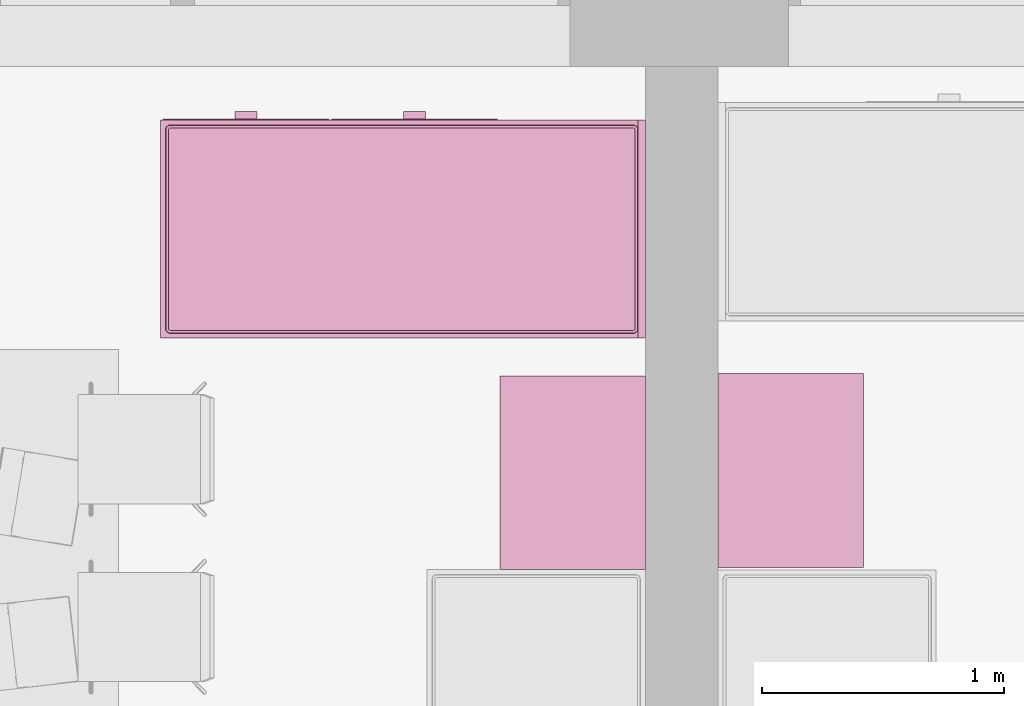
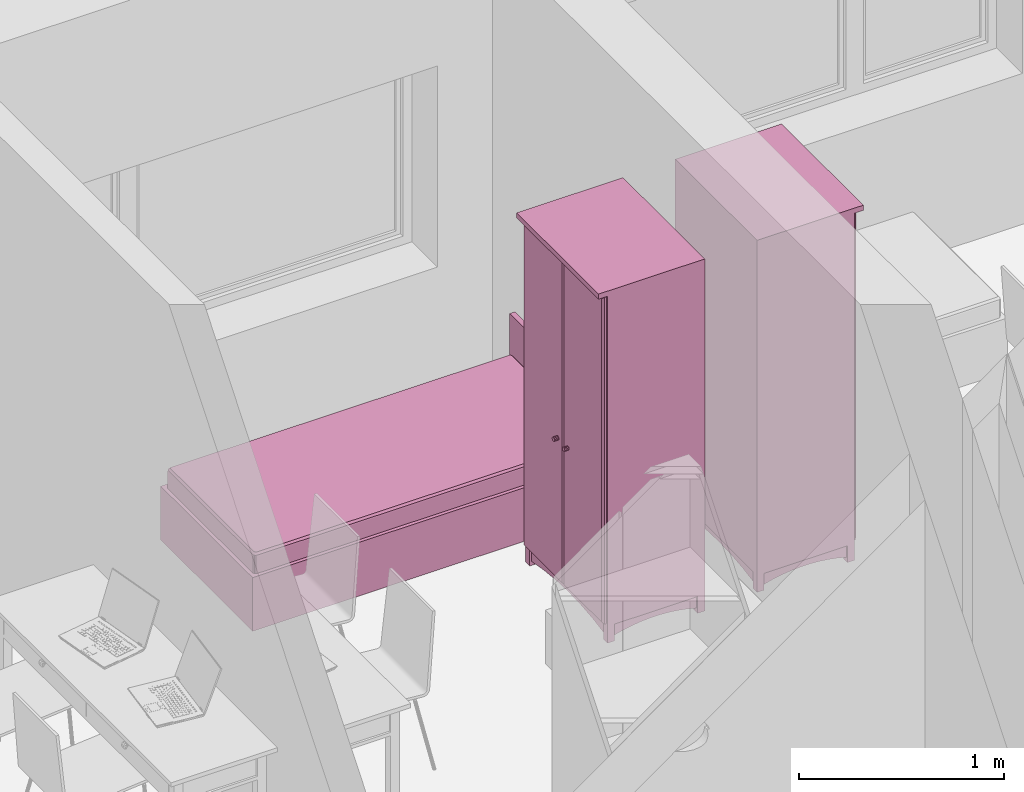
# One storey, part 138 of 172: 3 furnishings.
"""IFC2X3 building model written with IfcOpenShell, lengths in millimetres."""

from ifc_helpers import new_model, entity, si_unit, converted_unit, money_unit, direction, frame, origin_with_axes, place, context, subcontext, project, spatial, faceted_brep, source, transform, mapped, material, material_list, type_object, element, save


model = new_model("IFC2X3")

# Units and contexts
model_context = context("Model", 3, precision=1e-05, world=origin_with_axes(), true_north=direction((0.0, 1.0)))
body_context = subcontext(model_context, "Body", "Model", "MODEL_VIEW")
ifc_project = project(units=[si_unit("LENGTHUNIT", "METRE", prefix="MILLI"), si_unit("AREAUNIT", "SQUARE_METRE"), si_unit("VOLUMEUNIT", "CUBIC_METRE"), converted_unit("PLANEANGLEUNIT", "DEGREE", entity("IfcPlaneAngleMeasure", 0.0174532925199), si_unit("PLANEANGLEUNIT", "RADIAN"), dimensions=[0, 0, 0, 0, 0, 0, 0]), si_unit("SOLIDANGLEUNIT", "STERADIAN"), money_unit("USD"), converted_unit("TIMEUNIT", "Year", entity("IfcTimeMeasure", 31556926.0), si_unit("TIMEUNIT", "SECOND"), dimensions=[0, 0, 0, 0, 0, 0, 0]), si_unit("MASSUNIT", "GRAM"), si_unit("THERMODYNAMICTEMPERATUREUNIT", "DEGREE_CELSIUS"), si_unit("LUMINOUSINTENSITYUNIT", "LUMEN")], contexts=[model_context])

# Site, building, storey
site_placement = place(None, origin_with_axes())
site = spatial("IfcSite", under=ifc_project, at=site_placement, Name="Site", CompositionType="ELEMENT")
building_placement = place(site_placement, origin_with_axes())
building = spatial("IfcBuilding", under=site, at=building_placement, Name="Building", CompositionType="ELEMENT")
storey_placement = place(building_placement, frame((0.0, 0.0, 3200.0), z_axis=(0.0, 0.0, 1.0), x_axis=(1.0, 0.0, 0.0)))
storey = spatial("IfcBuildingStorey", under=building, at=storey_placement, Name="3KORRUS", CompositionType="ELEMENT", Elevation=3200.0)

# Furnishings
ifc_material = material(Name="Background")
ifc_material_list = material_list([ifc_material])
furnishing_element_type_1 = type_object("IfcFurnishingElementType", Name="Cupboard 19")
shared_shape_1 = source(origin_with_axes(), body_context, "Body", "Brep", [
    faceted_brep([(780.0, 600.0, 120.0), (780.0, 600.0, 2050.0), (780.0, 580.0, 2050.0), (780.0, 580.0, 120.0), (20.0, 600.0, 120.0), (20.0, 600.0, 2050.0), (20.0, 580.0, 2050.0), (20.0, 580.0, 120.0)], [[[0, 1, 2, 3]], [[4, 5, 1, 0]], [[1, 5, 6, 2]], [[3, 2, 6, 7]], [[0, 3, 7, 4]], [[7, 6, 5, 4]]]),
    faceted_brep([(0.0, 50.0, 100.0), (0.0, 600.0, 100.0), (20.0, 600.0, 100.0), (20.0, 50.0, 100.0), (0.0, 50.0, 2070.0), (0.0, 600.0, 2070.0), (20.0, 600.0, 2070.0), (20.0, 50.0, 2070.0)], [[[0, 1, 2, 3]], [[0, 4, 5, 1]], [[1, 5, 6, 2]], [[2, 6, 7, 3]], [[3, 7, 4, 0]], [[7, 6, 5, 4]]]),
    faceted_brep([(780.0, 50.0, 100.0), (780.0, 600.0, 100.0), (800.0, 600.0, 100.0), (800.0, 50.0, 100.0), (780.0, 50.0, 2070.0), (780.0, 600.0, 2070.0), (800.0, 600.0, 2070.0), (800.0, 50.0, 2070.0)], [[[0, 1, 2, 3]], [[0, 4, 5, 1]], [[1, 5, 6, 2]], [[2, 6, 7, 3]], [[3, 7, 4, 0]], [[7, 6, 5, 4]]]),
    faceted_brep([(20.0, 50.0, 100.0), (20.0, 600.0, 100.0), (780.0, 600.0, 100.0), (780.0, 50.0, 100.0), (20.0, 50.0, 120.0), (20.0, 600.0, 120.0), (780.0, 600.0, 120.0), (780.0, 50.0, 120.0)], [[[0, 1, 2, 3]], [[0, 4, 5, 1]], [[1, 5, 6, 2]], [[2, 6, 7, 3]], [[3, 7, 4, 0]], [[7, 6, 5, 4]]]),
    faceted_brep([(20.0, 50.0, 2050.0), (20.0, 600.0, 2050.0), (780.0, 600.0, 2050.0), (780.0, 50.0, 2050.0), (20.0, 50.0, 2070.0), (20.0, 600.0, 2070.0), (780.0, 600.0, 2070.0), (780.0, 50.0, 2070.0)], [[[0, 1, 2, 3]], [[0, 4, 5, 1]], [[1, 5, 6, 2]], [[2, 6, 7, 3]], [[3, 7, 4, 0]], [[7, 6, 5, 4]]]),
    faceted_brep([(0.0, 600.0, 2070.0), (0.0, 0.0, 2070.0), (0.0, 0.0, 2100.0), (0.0, 600.0, 2100.0), (800.0, 600.0, 2070.0), (800.0, 0.0, 2070.0), (800.0, 0.0, 2100.0), (800.0, 600.0, 2100.0)], [[[0, 1, 2, 3]], [[0, 4, 5, 1]], [[1, 5, 6, 2]], [[3, 2, 6, 7]], [[4, 0, 3, 7]], [[5, 4, 7, 6]]]),
    faceted_brep([(760.0, 590.0, 25.0), (760.0, 570.0, 25.0), (640.962, 570.0, 45.8), (640.962, 590.0, 45.8), (760.0, 590.0, 100.0), (760.0, 570.0, 100.0), (40.0, 570.0, 100.0), (40.0, 570.0, 25.0), (159.038, 570.0, 45.8), (279.23, 570.0, 58.32), (400.0, 570.0, 62.5), (520.77, 570.0, 58.32), (520.77, 590.0, 58.32), (400.0, 590.0, 62.5), (279.23, 590.0, 58.32), (159.038, 590.0, 45.8), (40.0, 590.0, 25.0), (40.0, 590.0, 100.0)], [[[0, 1, 2, 3]], [[4, 5, 1, 0]], [[1, 5, 6, 7, 8, 9, 10, 11, 2]], [[3, 2, 11, 12]], [[0, 3, 12, 13, 14, 15, 16, 17, 4]], [[17, 6, 5, 4]], [[16, 7, 6, 17]], [[15, 8, 7, 16]], [[14, 9, 8, 15]], [[13, 10, 9, 14]], [[12, 11, 10, 13]]]),
    faceted_brep([(760.0, 80.0, 25.0), (760.0, 60.0, 25.0), (640.962, 60.0, 45.8), (640.962, 80.0, 45.8), (760.0, 80.0, 100.0), (760.0, 60.0, 100.0), (40.0, 60.0, 100.0), (40.0, 60.0, 25.0), (159.038, 60.0, 45.8), (279.23, 60.0, 58.32), (400.0, 60.0, 62.5), (520.77, 60.0, 58.32), (520.77, 80.0, 58.32), (400.0, 80.0, 62.5), (279.23, 80.0, 58.32), (159.038, 80.0, 45.8), (40.0, 80.0, 25.0), (40.0, 80.0, 100.0)], [[[0, 1, 2, 3]], [[4, 5, 1, 0]], [[1, 5, 6, 7, 8, 9, 10, 11, 2]], [[3, 2, 11, 12]], [[0, 3, 12, 13, 14, 15, 16, 17, 4]], [[17, 6, 5, 4]], [[16, 7, 6, 17]], [[15, 8, 7, 16]], [[14, 9, 8, 15]], [[13, 10, 9, 14]], [[12, 11, 10, 13]]]),
    faceted_brep([(790.0, 90.0, 25.0), (770.0, 90.0, 25.0), (770.0, 141.266, 38.072), (790.0, 141.266, 38.072), (790.0, 90.0, 100.0), (770.0, 90.0, 100.0), (770.0, 560.0, 100.0), (770.0, 560.0, 25.0), (770.0, 508.734, 38.072), (770.0, 456.752, 47.92), (770.0, 404.257, 54.508), (770.0, 351.453, 57.808), (770.0, 298.547, 57.808), (770.0, 245.743, 54.508), (770.0, 193.248, 47.92), (790.0, 193.248, 47.92), (790.0, 245.743, 54.508), (790.0, 298.547, 57.808), (790.0, 351.453, 57.808), (790.0, 404.257, 54.508), (790.0, 456.752, 47.92), (790.0, 508.734, 38.072), (790.0, 560.0, 25.0), (790.0, 560.0, 100.0)], [[[0, 1, 2, 3]], [[4, 5, 1, 0]], [[1, 5, 6, 7, 8, 9, 10, 11, 12, 13, 14, 2]], [[3, 2, 14, 15]], [[0, 3, 15, 16, 17, 18, 19, 20, 21, 22, 23, 4]], [[23, 6, 5, 4]], [[22, 7, 6, 23]], [[21, 8, 7, 22]], [[20, 9, 8, 21]], [[19, 10, 9, 20]], [[18, 11, 10, 19]], [[17, 12, 11, 18]], [[16, 13, 12, 17]], [[15, 14, 13, 16]]]),
    faceted_brep([(30.0, 90.0, 25.0), (10.0, 90.0, 25.0), (10.0, 141.266, 38.072), (30.0, 141.266, 38.072), (30.0, 90.0, 100.0), (10.0, 90.0, 100.0), (10.0, 560.0, 100.0), (10.0, 560.0, 25.0), (10.0, 508.734, 38.072), (10.0, 456.752, 47.92), (10.0, 404.257, 54.508), (10.0, 351.453, 57.808), (10.0, 298.547, 57.808), (10.0, 245.743, 54.508), (10.0, 193.248, 47.92), (30.0, 193.248, 47.92), (30.0, 245.743, 54.508), (30.0, 298.547, 57.808), (30.0, 351.453, 57.808), (30.0, 404.257, 54.508), (30.0, 456.752, 47.92), (30.0, 508.734, 38.072), (30.0, 560.0, 25.0), (30.0, 560.0, 100.0)], [[[0, 1, 2, 3]], [[4, 5, 1, 0]], [[1, 5, 6, 7, 8, 9, 10, 11, 12, 13, 14, 2]], [[3, 2, 14, 15]], [[0, 3, 15, 16, 17, 18, 19, 20, 21, 22, 23, 4]], [[23, 6, 5, 4]], [[22, 7, 6, 23]], [[21, 8, 7, 22]], [[20, 9, 8, 21]], [[19, 10, 9, 20]], [[18, 11, 10, 19]], [[17, 12, 11, 18]], [[16, 13, 12, 17]], [[15, 14, 13, 16]]]),
    faceted_brep([(760.0, 560.0, 0.0), (760.0, 560.0, 100.0), (760.0, 600.0, 100.0), (760.0, 600.0, 0.0), (800.0, 560.0, 0.0), (800.0, 560.0, 100.0), (800.0, 600.0, 100.0), (800.0, 600.0, 0.0)], [[[0, 1, 2, 3]], [[4, 5, 1, 0]], [[1, 5, 6, 2]], [[3, 2, 6, 7]], [[0, 3, 7, 4]], [[7, 6, 5, 4]]]),
    faceted_brep([(0.0, 560.0, 0.0), (0.0, 560.0, 100.0), (0.0, 600.0, 100.0), (0.0, 600.0, 0.0), (40.0, 560.0, 0.0), (40.0, 560.0, 100.0), (40.0, 600.0, 100.0), (40.0, 600.0, 0.0)], [[[0, 1, 2, 3]], [[4, 5, 1, 0]], [[1, 5, 6, 2]], [[3, 2, 6, 7]], [[0, 3, 7, 4]], [[7, 6, 5, 4]]]),
    faceted_brep([(760.0, 50.0, 0.0), (760.0, 50.0, 100.0), (760.0, 90.0, 100.0), (760.0, 90.0, 0.0), (800.0, 50.0, 0.0), (800.0, 50.0, 100.0), (800.0, 90.0, 100.0), (800.0, 90.0, 0.0)], [[[0, 1, 2, 3]], [[4, 5, 1, 0]], [[1, 5, 6, 2]], [[3, 2, 6, 7]], [[0, 3, 7, 4]], [[7, 6, 5, 4]]]),
    faceted_brep([(0.0, 50.0, 0.0), (0.0, 50.0, 100.0), (0.0, 90.0, 100.0), (0.0, 90.0, 0.0), (40.0, 50.0, 0.0), (40.0, 50.0, 100.0), (40.0, 90.0, 100.0), (40.0, 90.0, 0.0)], [[[0, 1, 2, 3]], [[4, 5, 1, 0]], [[1, 5, 6, 2]], [[3, 2, 6, 7]], [[0, 3, 7, 4]], [[7, 6, 5, 4]]]),
    faceted_brep([(780.0, 580.0, 587.5), (780.0, 580.0, 607.5), (780.0, 50.0, 607.5), (780.0, 50.0, 587.5), (20.0, 580.0, 587.5), (20.0, 580.0, 607.5), (20.0, 50.0, 607.5), (20.0, 50.0, 587.5)], [[[0, 1, 2, 3]], [[4, 5, 1, 0]], [[1, 5, 6, 2]], [[3, 2, 6, 7]], [[0, 3, 7, 4]], [[7, 6, 5, 4]]]),
    faceted_brep([(780.0, 580.0, 1075.0), (780.0, 580.0, 1095.0), (780.0, 50.0, 1095.0), (780.0, 50.0, 1075.0), (20.0, 580.0, 1075.0), (20.0, 580.0, 1095.0), (20.0, 50.0, 1095.0), (20.0, 50.0, 1075.0)], [[[0, 1, 2, 3]], [[4, 5, 1, 0]], [[1, 5, 6, 2]], [[3, 2, 6, 7]], [[0, 3, 7, 4]], [[7, 6, 5, 4]]]),
    faceted_brep([(780.0, 580.0, 1562.5), (780.0, 580.0, 1582.5), (780.0, 50.0, 1582.5), (780.0, 50.0, 1562.5), (20.0, 580.0, 1562.5), (20.0, 580.0, 1582.5), (20.0, 50.0, 1582.5), (20.0, 50.0, 1562.5)], [[[0, 1, 2, 3]], [[4, 5, 1, 0]], [[1, 5, 6, 2]], [[3, 2, 6, 7]], [[0, 3, 7, 4]], [[7, 6, 5, 4]]]),
    faceted_brep([(789.5, 50.0, 110.5), (400.5, 50.0, 110.5), (400.5, 50.0, 2059.5), (789.5, 50.0, 2059.5), (789.5, 40.0, 110.5), (400.5, 40.0, 110.5), (400.5, 40.0, 2059.5), (789.5, 40.0, 2059.5), (779.5, 30.0, 120.5), (410.5, 30.0, 120.5), (410.5, 30.0, 2049.5), (779.5, 30.0, 2049.5)], [[[0, 1, 2, 3]], [[0, 4, 5, 1]], [[1, 5, 6, 2]], [[2, 6, 7, 3]], [[3, 7, 4, 0]], [[4, 8, 9, 5]], [[5, 9, 10, 6]], [[6, 10, 11, 7]], [[7, 11, 8, 4]], [[10, 9, 8, 11]]]),
    faceted_brep([(399.5, 50.0, 110.5), (10.5, 50.0, 110.5), (10.5, 50.0, 2059.5), (399.5, 50.0, 2059.5), (399.5, 40.0, 110.5), (10.5, 40.0, 110.5), (10.5, 40.0, 2059.5), (399.5, 40.0, 2059.5), (389.5, 30.0, 120.5), (20.5, 30.0, 120.5), (20.5, 30.0, 2049.5), (389.5, 30.0, 2049.5)], [[[0, 1, 2, 3]], [[0, 4, 5, 1]], [[1, 5, 6, 2]], [[2, 6, 7, 3]], [[3, 7, 4, 0]], [[4, 8, 9, 5]], [[5, 9, 10, 6]], [[6, 10, 11, 7]], [[7, 11, 8, 4]], [[10, 9, 8, 11]]]),
    faceted_brep([(339.608, 30.0, 954.0), (338.0, 30.0, 960.0), (339.608, 30.0, 966.0), (344.0, 30.0, 970.392), (350.0, 30.0, 972.0), (356.0, 30.0, 970.392), (360.392, 30.0, 966.0), (362.0, 30.0, 960.0), (360.392, 30.0, 954.0), (356.0, 30.0, 949.608), (350.0, 30.0, 948.0), (344.0, 30.0, 949.608), (339.608, 5.0, 954.0), (338.0, 5.0, 960.0), (339.608, 5.0, 966.0), (344.0, 5.0, 970.392), (350.0, 5.0, 972.0), (356.0, 5.0, 970.392), (360.392, 5.0, 966.0), (362.0, 5.0, 960.0), (360.392, 5.0, 954.0), (356.0, 5.0, 949.608), (350.0, 5.0, 948.0), (344.0, 5.0, 949.608)], [[[0, 1, 2, 3, 4, 5, 6, 7, 8, 9, 10, 11]], [[0, 12, 13, 1]], [[1, 13, 14, 2]], [[2, 14, 15, 3]], [[3, 15, 16, 4]], [[4, 16, 17, 5]], [[5, 17, 18, 6]], [[6, 18, 19, 7]], [[7, 19, 20, 8]], [[8, 20, 21, 9]], [[9, 21, 22, 10]], [[10, 22, 23, 11]], [[11, 23, 12, 0]], [[12, 23, 22, 21, 20, 19, 18, 17, 16, 15, 14, 13]]]),
    faceted_brep([(460.392, 30.0, 954.0), (456.0, 30.0, 949.608), (450.0, 30.0, 948.0), (444.0, 30.0, 949.608), (439.608, 30.0, 954.0), (438.0, 30.0, 960.0), (439.608, 30.0, 966.0), (444.0, 30.0, 970.392), (450.0, 30.0, 972.0), (456.0, 30.0, 970.392), (460.392, 30.0, 966.0), (462.0, 30.0, 960.0), (460.392, 5.0, 954.0), (456.0, 5.0, 949.608), (450.0, 5.0, 948.0), (444.0, 5.0, 949.608), (439.608, 5.0, 954.0), (438.0, 5.0, 960.0), (439.608, 5.0, 966.0), (444.0, 5.0, 970.392), (450.0, 5.0, 972.0), (456.0, 5.0, 970.392), (460.392, 5.0, 966.0), (462.0, 5.0, 960.0)], [[[0, 1, 2, 3, 4, 5, 6, 7, 8, 9, 10, 11]], [[1, 0, 12, 13]], [[2, 1, 13, 14]], [[3, 2, 14, 15]], [[4, 3, 15, 16]], [[5, 4, 16, 17]], [[6, 5, 17, 18]], [[7, 6, 18, 19]], [[8, 7, 19, 20]], [[9, 8, 20, 21]], [[10, 9, 21, 22]], [[11, 10, 22, 23]], [[0, 11, 23, 12]], [[12, 23, 22, 21, 20, 19, 18, 17, 16, 15, 14, 13]]]),
])
furnishing_1_placement = place(storey_placement, frame((609.703296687, -7207.41563755, 0.0), z_axis=(0.0, 0.0, 1.0), x_axis=(0.0, 1.0, 0.0)))
element("IfcFurnishingElement", 1, at=furnishing_1_placement, inside=storey, type_object=furnishing_element_type_1, material=ifc_material_list, Name="FU - 014", context=body_context, shape_type="MappedRepresentation", body=[
    mapped(shared_shape_1, transform((0.0, 0.0, 0.0))),
])
shared_shape_2 = source(origin_with_axes(), body_context, "Body", "Brep", [
    faceted_brep([(-780.0, 600.0, 120.0), (-780.0, 580.0, 120.0), (-780.0, 580.0, 2050.0), (-780.0, 600.0, 2050.0), (-20.0, 600.0, 120.0), (-20.0, 580.0, 120.0), (-20.0, 580.0, 2050.0), (-20.0, 600.0, 2050.0)], [[[0, 1, 2, 3]], [[0, 4, 5, 1]], [[1, 5, 6, 2]], [[3, 2, 6, 7]], [[4, 0, 3, 7]], [[5, 4, 7, 6]]]),
    faceted_brep([(0.0, 50.0, 100.0), (-20.0, 50.0, 100.0), (-20.0, 600.0, 100.0), (0.0, 600.0, 100.0), (0.0, 50.0, 2070.0), (-20.0, 50.0, 2070.0), (-20.0, 600.0, 2070.0), (0.0, 600.0, 2070.0)], [[[0, 1, 2, 3]], [[1, 0, 4, 5]], [[2, 1, 5, 6]], [[3, 2, 6, 7]], [[0, 3, 7, 4]], [[5, 4, 7, 6]]]),
    faceted_brep([(-780.0, 50.0, 100.0), (-800.0, 50.0, 100.0), (-800.0, 600.0, 100.0), (-780.0, 600.0, 100.0), (-780.0, 50.0, 2070.0), (-800.0, 50.0, 2070.0), (-800.0, 600.0, 2070.0), (-780.0, 600.0, 2070.0)], [[[0, 1, 2, 3]], [[1, 0, 4, 5]], [[2, 1, 5, 6]], [[3, 2, 6, 7]], [[0, 3, 7, 4]], [[5, 4, 7, 6]]]),
    faceted_brep([(-20.0, 50.0, 100.0), (-780.0, 50.0, 100.0), (-780.0, 600.0, 100.0), (-20.0, 600.0, 100.0), (-20.0, 50.0, 120.0), (-780.0, 50.0, 120.0), (-780.0, 600.0, 120.0), (-20.0, 600.0, 120.0)], [[[0, 1, 2, 3]], [[1, 0, 4, 5]], [[2, 1, 5, 6]], [[3, 2, 6, 7]], [[0, 3, 7, 4]], [[5, 4, 7, 6]]]),
    faceted_brep([(-20.0, 50.0, 2050.0), (-780.0, 50.0, 2050.0), (-780.0, 600.0, 2050.0), (-20.0, 600.0, 2050.0), (-20.0, 50.0, 2070.0), (-780.0, 50.0, 2070.0), (-780.0, 600.0, 2070.0), (-20.0, 600.0, 2070.0)], [[[0, 1, 2, 3]], [[1, 0, 4, 5]], [[2, 1, 5, 6]], [[3, 2, 6, 7]], [[0, 3, 7, 4]], [[5, 4, 7, 6]]]),
    faceted_brep([(0.0, 600.0, 2070.0), (0.0, 600.0, 2100.0), (0.0, 0.0, 2100.0), (0.0, 0.0, 2070.0), (-800.0, 600.0, 2070.0), (-800.0, 600.0, 2100.0), (-800.0, 0.0, 2100.0), (-800.0, 0.0, 2070.0)], [[[0, 1, 2, 3]], [[4, 5, 1, 0]], [[1, 5, 6, 2]], [[3, 2, 6, 7]], [[0, 3, 7, 4]], [[7, 6, 5, 4]]]),
    faceted_brep([(-760.0, 590.0, 25.0), (-640.962, 590.0, 45.8), (-640.962, 570.0, 45.8), (-760.0, 570.0, 25.0), (-760.0, 590.0, 100.0), (-40.0, 590.0, 100.0), (-40.0, 590.0, 25.0), (-159.038, 590.0, 45.8), (-279.23, 590.0, 58.32), (-400.0, 590.0, 62.5), (-520.77, 590.0, 58.32), (-520.77, 570.0, 58.32), (-400.0, 570.0, 62.5), (-279.23, 570.0, 58.32), (-159.038, 570.0, 45.8), (-40.0, 570.0, 25.0), (-40.0, 570.0, 100.0), (-760.0, 570.0, 100.0)], [[[0, 1, 2, 3]], [[0, 4, 5, 6, 7, 8, 9, 10, 1]], [[1, 10, 11, 2]], [[3, 2, 11, 12, 13, 14, 15, 16, 17]], [[4, 0, 3, 17]], [[5, 4, 17, 16]], [[6, 5, 16, 15]], [[7, 6, 15, 14]], [[8, 7, 14, 13]], [[9, 8, 13, 12]], [[10, 9, 12, 11]]]),
    faceted_brep([(-760.0, 80.0, 25.0), (-640.962, 80.0, 45.8), (-640.962, 60.0, 45.8), (-760.0, 60.0, 25.0), (-760.0, 80.0, 100.0), (-40.0, 80.0, 100.0), (-40.0, 80.0, 25.0), (-159.038, 80.0, 45.8), (-279.23, 80.0, 58.32), (-400.0, 80.0, 62.5), (-520.77, 80.0, 58.32), (-520.77, 60.0, 58.32), (-400.0, 60.0, 62.5), (-279.23, 60.0, 58.32), (-159.038, 60.0, 45.8), (-40.0, 60.0, 25.0), (-40.0, 60.0, 100.0), (-760.0, 60.0, 100.0)], [[[0, 1, 2, 3]], [[0, 4, 5, 6, 7, 8, 9, 10, 1]], [[1, 10, 11, 2]], [[3, 2, 11, 12, 13, 14, 15, 16, 17]], [[4, 0, 3, 17]], [[5, 4, 17, 16]], [[6, 5, 16, 15]], [[7, 6, 15, 14]], [[8, 7, 14, 13]], [[9, 8, 13, 12]], [[10, 9, 12, 11]]]),
    faceted_brep([(-790.0, 90.0, 25.0), (-790.0, 141.266, 38.072), (-770.0, 141.266, 38.072), (-770.0, 90.0, 25.0), (-790.0, 90.0, 100.0), (-790.0, 560.0, 100.0), (-790.0, 560.0, 25.0), (-790.0, 508.734, 38.072), (-790.0, 456.752, 47.92), (-790.0, 404.257, 54.508), (-790.0, 351.453, 57.808), (-790.0, 298.547, 57.808), (-790.0, 245.743, 54.508), (-790.0, 193.248, 47.92), (-770.0, 193.248, 47.92), (-770.0, 245.743, 54.508), (-770.0, 298.547, 57.808), (-770.0, 351.453, 57.808), (-770.0, 404.257, 54.508), (-770.0, 456.752, 47.92), (-770.0, 508.734, 38.072), (-770.0, 560.0, 25.0), (-770.0, 560.0, 100.0), (-770.0, 90.0, 100.0)], [[[0, 1, 2, 3]], [[0, 4, 5, 6, 7, 8, 9, 10, 11, 12, 13, 1]], [[1, 13, 14, 2]], [[3, 2, 14, 15, 16, 17, 18, 19, 20, 21, 22, 23]], [[4, 0, 3, 23]], [[5, 4, 23, 22]], [[6, 5, 22, 21]], [[7, 6, 21, 20]], [[8, 7, 20, 19]], [[9, 8, 19, 18]], [[10, 9, 18, 17]], [[11, 10, 17, 16]], [[12, 11, 16, 15]], [[13, 12, 15, 14]]]),
    faceted_brep([(-30.0, 90.0, 25.0), (-30.0, 141.266, 38.072), (-10.0, 141.266, 38.072), (-10.0, 90.0, 25.0), (-30.0, 90.0, 100.0), (-30.0, 560.0, 100.0), (-30.0, 560.0, 25.0), (-30.0, 508.734, 38.072), (-30.0, 456.752, 47.92), (-30.0, 404.257, 54.508), (-30.0, 351.453, 57.808), (-30.0, 298.547, 57.808), (-30.0, 245.743, 54.508), (-30.0, 193.248, 47.92), (-10.0, 193.248, 47.92), (-10.0, 245.743, 54.508), (-10.0, 298.547, 57.808), (-10.0, 351.453, 57.808), (-10.0, 404.257, 54.508), (-10.0, 456.752, 47.92), (-10.0, 508.734, 38.072), (-10.0, 560.0, 25.0), (-10.0, 560.0, 100.0), (-10.0, 90.0, 100.0)], [[[0, 1, 2, 3]], [[0, 4, 5, 6, 7, 8, 9, 10, 11, 12, 13, 1]], [[1, 13, 14, 2]], [[3, 2, 14, 15, 16, 17, 18, 19, 20, 21, 22, 23]], [[4, 0, 3, 23]], [[5, 4, 23, 22]], [[6, 5, 22, 21]], [[7, 6, 21, 20]], [[8, 7, 20, 19]], [[9, 8, 19, 18]], [[10, 9, 18, 17]], [[11, 10, 17, 16]], [[12, 11, 16, 15]], [[13, 12, 15, 14]]]),
    faceted_brep([(-760.0, 560.0, 0.0), (-760.0, 600.0, 0.0), (-760.0, 600.0, 100.0), (-760.0, 560.0, 100.0), (-800.0, 560.0, 0.0), (-800.0, 600.0, 0.0), (-800.0, 600.0, 100.0), (-800.0, 560.0, 100.0)], [[[0, 1, 2, 3]], [[0, 4, 5, 1]], [[1, 5, 6, 2]], [[3, 2, 6, 7]], [[4, 0, 3, 7]], [[5, 4, 7, 6]]]),
    faceted_brep([(0.0, 560.0, 0.0), (0.0, 600.0, 0.0), (0.0, 600.0, 100.0), (0.0, 560.0, 100.0), (-40.0, 560.0, 0.0), (-40.0, 600.0, 0.0), (-40.0, 600.0, 100.0), (-40.0, 560.0, 100.0)], [[[0, 1, 2, 3]], [[0, 4, 5, 1]], [[1, 5, 6, 2]], [[3, 2, 6, 7]], [[4, 0, 3, 7]], [[5, 4, 7, 6]]]),
    faceted_brep([(-760.0, 50.0, 0.0), (-760.0, 90.0, 0.0), (-760.0, 90.0, 100.0), (-760.0, 50.0, 100.0), (-800.0, 50.0, 0.0), (-800.0, 90.0, 0.0), (-800.0, 90.0, 100.0), (-800.0, 50.0, 100.0)], [[[0, 1, 2, 3]], [[0, 4, 5, 1]], [[1, 5, 6, 2]], [[3, 2, 6, 7]], [[4, 0, 3, 7]], [[5, 4, 7, 6]]]),
    faceted_brep([(0.0, 50.0, 0.0), (0.0, 90.0, 0.0), (0.0, 90.0, 100.0), (0.0, 50.0, 100.0), (-40.0, 50.0, 0.0), (-40.0, 90.0, 0.0), (-40.0, 90.0, 100.0), (-40.0, 50.0, 100.0)], [[[0, 1, 2, 3]], [[0, 4, 5, 1]], [[1, 5, 6, 2]], [[3, 2, 6, 7]], [[4, 0, 3, 7]], [[5, 4, 7, 6]]]),
    faceted_brep([(-780.0, 580.0, 587.5), (-780.0, 50.0, 587.5), (-780.0, 50.0, 607.5), (-780.0, 580.0, 607.5), (-20.0, 580.0, 587.5), (-20.0, 50.0, 587.5), (-20.0, 50.0, 607.5), (-20.0, 580.0, 607.5)], [[[0, 1, 2, 3]], [[0, 4, 5, 1]], [[1, 5, 6, 2]], [[3, 2, 6, 7]], [[4, 0, 3, 7]], [[5, 4, 7, 6]]]),
    faceted_brep([(-780.0, 580.0, 1075.0), (-780.0, 50.0, 1075.0), (-780.0, 50.0, 1095.0), (-780.0, 580.0, 1095.0), (-20.0, 580.0, 1075.0), (-20.0, 50.0, 1075.0), (-20.0, 50.0, 1095.0), (-20.0, 580.0, 1095.0)], [[[0, 1, 2, 3]], [[0, 4, 5, 1]], [[1, 5, 6, 2]], [[3, 2, 6, 7]], [[4, 0, 3, 7]], [[5, 4, 7, 6]]]),
    faceted_brep([(-780.0, 580.0, 1562.5), (-780.0, 50.0, 1562.5), (-780.0, 50.0, 1582.5), (-780.0, 580.0, 1582.5), (-20.0, 580.0, 1562.5), (-20.0, 50.0, 1562.5), (-20.0, 50.0, 1582.5), (-20.0, 580.0, 1582.5)], [[[0, 1, 2, 3]], [[0, 4, 5, 1]], [[1, 5, 6, 2]], [[3, 2, 6, 7]], [[4, 0, 3, 7]], [[5, 4, 7, 6]]]),
    faceted_brep([(-789.5, 50.0, 110.5), (-789.5, 50.0, 2059.5), (-400.5, 50.0, 2059.5), (-400.5, 50.0, 110.5), (-789.5, 40.0, 110.5), (-789.5, 40.0, 2059.5), (-400.5, 40.0, 2059.5), (-400.5, 40.0, 110.5), (-779.5, 30.0, 120.5), (-779.5, 30.0, 2049.5), (-410.5, 30.0, 2049.5), (-410.5, 30.0, 120.5)], [[[0, 1, 2, 3]], [[1, 0, 4, 5]], [[2, 1, 5, 6]], [[3, 2, 6, 7]], [[0, 3, 7, 4]], [[5, 4, 8, 9]], [[6, 5, 9, 10]], [[7, 6, 10, 11]], [[4, 7, 11, 8]], [[10, 9, 8, 11]]]),
    faceted_brep([(-399.5, 50.0, 110.5), (-399.5, 50.0, 2059.5), (-10.5, 50.0, 2059.5), (-10.5, 50.0, 110.5), (-399.5, 40.0, 110.5), (-399.5, 40.0, 2059.5), (-10.5, 40.0, 2059.5), (-10.5, 40.0, 110.5), (-389.5, 30.0, 120.5), (-389.5, 30.0, 2049.5), (-20.5, 30.0, 2049.5), (-20.5, 30.0, 120.5)], [[[0, 1, 2, 3]], [[1, 0, 4, 5]], [[2, 1, 5, 6]], [[3, 2, 6, 7]], [[0, 3, 7, 4]], [[5, 4, 8, 9]], [[6, 5, 9, 10]], [[7, 6, 10, 11]], [[4, 7, 11, 8]], [[10, 9, 8, 11]]]),
    faceted_brep([(-339.608, 30.0, 954.0), (-344.0, 30.0, 949.608), (-350.0, 30.0, 948.0), (-356.0, 30.0, 949.608), (-360.392, 30.0, 954.0), (-362.0, 30.0, 960.0), (-360.392, 30.0, 966.0), (-356.0, 30.0, 970.392), (-350.0, 30.0, 972.0), (-344.0, 30.0, 970.392), (-339.608, 30.0, 966.0), (-338.0, 30.0, 960.0), (-339.608, 5.0, 954.0), (-344.0, 5.0, 949.608), (-350.0, 5.0, 948.0), (-356.0, 5.0, 949.608), (-360.392, 5.0, 954.0), (-362.0, 5.0, 960.0), (-360.392, 5.0, 966.0), (-356.0, 5.0, 970.392), (-350.0, 5.0, 972.0), (-344.0, 5.0, 970.392), (-339.608, 5.0, 966.0), (-338.0, 5.0, 960.0)], [[[0, 1, 2, 3, 4, 5, 6, 7, 8, 9, 10, 11]], [[1, 0, 12, 13]], [[2, 1, 13, 14]], [[3, 2, 14, 15]], [[4, 3, 15, 16]], [[5, 4, 16, 17]], [[6, 5, 17, 18]], [[7, 6, 18, 19]], [[8, 7, 19, 20]], [[9, 8, 20, 21]], [[10, 9, 21, 22]], [[11, 10, 22, 23]], [[0, 11, 23, 12]], [[12, 23, 22, 21, 20, 19, 18, 17, 16, 15, 14, 13]]]),
    faceted_brep([(-460.392, 30.0, 954.0), (-462.0, 30.0, 960.0), (-460.392, 30.0, 966.0), (-456.0, 30.0, 970.392), (-450.0, 30.0, 972.0), (-444.0, 30.0, 970.392), (-439.608, 30.0, 966.0), (-438.0, 30.0, 960.0), (-439.608, 30.0, 954.0), (-444.0, 30.0, 949.608), (-450.0, 30.0, 948.0), (-456.0, 30.0, 949.608), (-460.392, 5.0, 954.0), (-462.0, 5.0, 960.0), (-460.392, 5.0, 966.0), (-456.0, 5.0, 970.392), (-450.0, 5.0, 972.0), (-444.0, 5.0, 970.392), (-439.608, 5.0, 966.0), (-438.0, 5.0, 960.0), (-439.608, 5.0, 954.0), (-444.0, 5.0, 949.608), (-450.0, 5.0, 948.0), (-456.0, 5.0, 949.608)], [[[0, 1, 2, 3, 4, 5, 6, 7, 8, 9, 10, 11]], [[0, 12, 13, 1]], [[1, 13, 14, 2]], [[2, 14, 15, 3]], [[3, 15, 16, 4]], [[4, 16, 17, 5]], [[5, 17, 18, 6]], [[6, 18, 19, 7]], [[7, 19, 20, 8]], [[8, 20, 21, 9]], [[9, 21, 22, 10]], [[10, 22, 23, 11]], [[11, 23, 12, 0]], [[12, 23, 22, 21, 20, 19, 18, 17, 16, 15, 14, 13]]]),
])
furnishing_2_placement = place(storey_placement, frame((-890.296703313, -7216.37850445, 0.0), z_axis=(0.0, 0.0, 1.0), x_axis=(0.0, -1.0, 0.0)))
element("IfcFurnishingElement", 2, at=furnishing_2_placement, inside=storey, type_object=furnishing_element_type_1, material=ifc_material_list, Name="FU - 014", context=body_context, shape_type="MappedRepresentation", body=[
    mapped(shared_shape_2, transform((0.0, 0.0, 0.0))),
])
furnishing_element_type_2 = type_object("IfcFurnishingElementType", Name="Bed 19")
shared_shape_3 = source(origin_with_axes(), body_context, "Body", "Brep", [
    faceted_brep([(-900.0, 1970.0, 0.0), (-900.0, 2000.0, 0.0), (0.0, 2000.0, 0.0), (0.0, 1970.0, 0.0), (-900.0, 1970.0, 660.0), (-900.0, 2000.0, 660.0), (0.0, 2000.0, 660.0), (0.0, 1970.0, 660.0)], [[[0, 1, 2, 3]], [[0, 4, 5, 1]], [[1, 5, 6, 2]], [[2, 6, 7, 3]], [[3, 7, 4, 0]], [[7, 6, 5, 4]]]),
    faceted_brep([(-900.0, 0.0, 0.0), (-900.0, 1970.0, 0.0), (0.0, 1970.0, 0.0), (0.0, 0.0, 0.0), (-900.0, 0.0, 320.0), (-900.0, 1970.0, 320.0), (0.0, 1970.0, 320.0), (0.0, 0.0, 320.0)], [[[0, 1, 2, 3]], [[0, 4, 5, 1]], [[1, 5, 6, 2]], [[2, 6, 7, 3]], [[3, 7, 4, 0]], [[7, 6, 5, 4]]]),
    faceted_brep([(-905.0, 10.0, 30.0), (-905.0, 695.0, 30.0), (-900.0, 695.0, 30.0), (-900.0, 10.0, 30.0), (-905.0, 10.0, 290.0), (-905.0, 695.0, 290.0), (-900.0, 695.0, 290.0), (-900.0, 10.0, 290.0)], [[[0, 1, 2, 3]], [[0, 4, 5, 1]], [[1, 5, 6, 2]], [[2, 6, 7, 3]], [[3, 7, 4, 0]], [[7, 6, 5, 4]]]),
    faceted_brep([(-935.0, 307.5, 150.0), (-935.0, 397.5, 150.0), (-905.0, 397.5, 150.0), (-905.0, 307.5, 150.0), (-935.0, 307.5, 170.0), (-935.0, 397.5, 170.0), (-905.0, 397.5, 170.0), (-905.0, 307.5, 170.0)], [[[0, 1, 2, 3]], [[0, 4, 5, 1]], [[1, 5, 6, 2]], [[2, 6, 7, 3]], [[3, 7, 4, 0]], [[7, 6, 5, 4]]]),
    faceted_brep([(-905.0, 705.0, 30.0), (-905.0, 1390.0, 30.0), (-900.0, 1390.0, 30.0), (-900.0, 705.0, 30.0), (-905.0, 705.0, 290.0), (-905.0, 1390.0, 290.0), (-900.0, 1390.0, 290.0), (-900.0, 705.0, 290.0)], [[[0, 1, 2, 3]], [[0, 4, 5, 1]], [[1, 5, 6, 2]], [[2, 6, 7, 3]], [[3, 7, 4, 0]], [[7, 6, 5, 4]]]),
    faceted_brep([(-935.0, 1002.5, 150.0), (-935.0, 1092.5, 150.0), (-905.0, 1092.5, 150.0), (-905.0, 1002.5, 150.0), (-935.0, 1002.5, 170.0), (-935.0, 1092.5, 170.0), (-905.0, 1092.5, 170.0), (-905.0, 1002.5, 170.0)], [[[0, 1, 2, 3]], [[0, 4, 5, 1]], [[1, 5, 6, 2]], [[2, 6, 7, 3]], [[3, 7, 4, 0]], [[7, 6, 5, 4]]]),
    faceted_brep([(-20.0, 40.0, 350.0), (-21.522, 32.346, 350.0), (-25.858, 25.858, 350.0), (-32.346, 21.522, 350.0), (-40.0, 20.0, 350.0), (-860.0, 20.0, 350.0), (-867.654, 21.522, 350.0), (-874.142, 25.858, 350.0), (-878.478, 32.346, 350.0), (-880.0, 40.0, 350.0), (-880.0, 1950.0, 350.0), (-878.478, 1957.654, 350.0), (-874.142, 1964.142, 350.0), (-867.654, 1968.478, 350.0), (-860.0, 1970.0, 350.0), (-40.0, 1970.0, 350.0), (-32.346, 1968.478, 350.0), (-25.858, 1964.142, 350.0), (-21.522, 1957.654, 350.0), (-20.0, 1950.0, 350.0), (-20.0, 40.0, 420.0), (-21.522, 32.346, 420.0), (-25.858, 25.858, 420.0), (-32.346, 21.522, 420.0), (-40.0, 20.0, 420.0), (-860.0, 20.0, 420.0), (-867.654, 21.522, 420.0), (-874.142, 25.858, 420.0), (-878.478, 32.346, 420.0), (-880.0, 40.0, 420.0), (-880.0, 1950.0, 420.0), (-878.478, 1957.654, 420.0), (-874.142, 1964.142, 420.0), (-867.654, 1968.478, 420.0), (-860.0, 1970.0, 420.0), (-40.0, 1970.0, 420.0), (-32.346, 1968.478, 420.0), (-25.858, 1964.142, 420.0), (-21.522, 1957.654, 420.0), (-20.0, 1950.0, 420.0), (-21.522, 40.15, 427.654), (-22.956, 32.94, 427.654), (-26.955, 26.955, 427.654), (-32.94, 22.956, 427.654), (-40.15, 21.522, 427.654), (-859.85, 21.522, 427.654), (-867.06, 22.956, 427.654), (-873.045, 26.955, 427.654), (-877.044, 32.94, 427.654), (-878.478, 40.15, 427.654), (-878.478, 1949.85, 427.654), (-877.044, 1957.06, 427.654), (-873.045, 1963.045, 427.654), (-867.06, 1967.044, 427.654), (-859.85, 1968.478, 427.654), (-40.15, 1968.478, 427.654), (-32.94, 1967.044, 427.654), (-26.955, 1963.045, 427.654), (-22.956, 1957.06, 427.654), (-21.522, 1949.85, 427.654), (-32.346, 41.216, 438.478), (-33.152, 37.164, 438.478), (-34.759, 34.759, 438.478), (-37.164, 33.152, 438.478), (-41.216, 32.346, 438.478), (-858.784, 32.346, 438.478), (-862.836, 33.152, 438.478), (-865.241, 34.759, 438.478), (-866.848, 37.164, 438.478), (-867.654, 41.216, 438.478), (-867.654, 1948.784, 438.478), (-866.848, 1952.836, 438.478), (-865.241, 1955.241, 438.478), (-862.836, 1956.848, 438.478), (-858.784, 1957.654, 438.478), (-41.216, 1957.654, 438.478), (-37.164, 1956.848, 438.478), (-34.759, 1955.241, 438.478), (-33.152, 1952.836, 438.478), (-32.346, 1948.784, 438.478), (-40.0, 41.97, 440.0), (-40.327, 40.327, 440.0), (-40.0, 40.0, 439.924), (-41.97, 40.0, 440.0), (-858.03, 40.0, 440.0), (-859.673, 40.327, 440.0), (-860.0, 40.0, 439.924), (-860.0, 41.97, 440.0), (-860.0, 1948.03, 440.0), (-859.673, 1949.673, 440.0), (-860.0, 1950.0, 439.924), (-858.03, 1950.0, 440.0), (-41.97, 1950.0, 440.0), (-40.327, 1949.673, 440.0), (-40.0, 1950.0, 439.924), (-40.0, 1948.03, 440.0)], [[[0, 1, 2, 3, 4, 5, 6, 7, 8, 9, 10, 11, 12, 13, 14, 15, 16, 17, 18, 19]], [[0, 20, 21, 1]], [[1, 21, 22, 2]], [[2, 22, 23, 3]], [[3, 23, 24, 4]], [[4, 24, 25, 5]], [[5, 25, 26, 6]], [[6, 26, 27, 7]], [[7, 27, 28, 8]], [[8, 28, 29, 9]], [[9, 29, 30, 10]], [[10, 30, 31, 11]], [[11, 31, 32, 12]], [[12, 32, 33, 13]], [[13, 33, 34, 14]], [[14, 34, 35, 15]], [[15, 35, 36, 16]], [[16, 36, 37, 17]], [[17, 37, 38, 18]], [[18, 38, 39, 19]], [[19, 39, 20, 0]], [[20, 40, 41, 21]], [[21, 41, 42, 22]], [[22, 42, 43, 23]], [[23, 43, 44, 24]], [[24, 44, 45, 25]], [[25, 45, 46, 26]], [[26, 46, 47, 27]], [[27, 47, 48, 28]], [[28, 48, 49, 29]], [[29, 49, 50, 30]], [[30, 50, 51, 31]], [[31, 51, 52, 32]], [[32, 52, 53, 33]], [[33, 53, 54, 34]], [[34, 54, 55, 35]], [[35, 55, 56, 36]], [[36, 56, 57, 37]], [[37, 57, 58, 38]], [[38, 58, 59, 39]], [[39, 59, 40, 20]], [[40, 60, 61, 41]], [[41, 61, 62, 42]], [[42, 62, 63, 43]], [[43, 63, 64, 44]], [[44, 64, 65, 45]], [[45, 65, 66, 46]], [[46, 66, 67, 47]], [[47, 67, 68, 48]], [[48, 68, 69, 49]], [[49, 69, 70, 50]], [[50, 70, 71, 51]], [[51, 71, 72, 52]], [[52, 72, 73, 53]], [[53, 73, 74, 54]], [[54, 74, 75, 55]], [[55, 75, 76, 56]], [[56, 76, 77, 57]], [[57, 77, 78, 58]], [[58, 78, 79, 59]], [[59, 79, 60, 40]], [[60, 80, 81, 82, 61]], [[61, 82, 62]], [[62, 82, 63]], [[63, 82, 81, 83, 64]], [[64, 83, 84, 65]], [[65, 84, 85, 86, 66]], [[66, 86, 67]], [[67, 86, 68]], [[68, 86, 85, 87, 69]], [[69, 87, 88, 70]], [[70, 88, 89, 90, 71]], [[71, 90, 72]], [[72, 90, 73]], [[73, 90, 89, 91, 74]], [[74, 91, 92, 75]], [[75, 92, 93, 94, 76]], [[76, 94, 77]], [[77, 94, 78]], [[78, 94, 93, 95, 79]], [[79, 95, 80, 60]], [[95, 93, 92, 91, 89, 88, 87, 85, 84, 83, 81, 80]]]),
    faceted_brep([(-20.0, 40.0, 350.0), (-20.0, 1950.0, 350.0), (-21.522, 1957.654, 350.0), (-25.858, 1964.142, 350.0), (-32.346, 1968.478, 350.0), (-40.0, 1970.0, 350.0), (-860.0, 1970.0, 350.0), (-867.654, 1968.478, 350.0), (-874.142, 1964.142, 350.0), (-878.478, 1957.654, 350.0), (-880.0, 1950.0, 350.0), (-880.0, 40.0, 350.0), (-878.478, 32.346, 350.0), (-874.142, 25.858, 350.0), (-867.654, 21.522, 350.0), (-860.0, 20.0, 350.0), (-40.0, 20.0, 350.0), (-32.346, 21.522, 350.0), (-25.858, 25.858, 350.0), (-21.522, 32.346, 350.0), (-20.0, 40.0, 320.0), (-20.0, 1950.0, 320.0), (-21.522, 1957.654, 320.0), (-25.858, 1964.142, 320.0), (-32.346, 1968.478, 320.0), (-40.0, 1970.0, 320.0), (-860.0, 1970.0, 320.0), (-867.654, 1968.478, 320.0), (-874.142, 1964.142, 320.0), (-878.478, 1957.654, 320.0), (-880.0, 1950.0, 320.0), (-880.0, 40.0, 320.0), (-878.478, 32.346, 320.0), (-874.142, 25.858, 320.0), (-867.654, 21.522, 320.0), (-860.0, 20.0, 320.0), (-40.0, 20.0, 320.0), (-32.346, 21.522, 320.0), (-25.858, 25.858, 320.0), (-21.522, 32.346, 320.0)], [[[0, 1, 2, 3, 4, 5, 6, 7, 8, 9, 10, 11, 12, 13, 14, 15, 16, 17, 18, 19]], [[1, 0, 20, 21]], [[2, 1, 21, 22]], [[3, 2, 22, 23]], [[4, 3, 23, 24]], [[5, 4, 24, 25]], [[6, 5, 25, 26]], [[7, 6, 26, 27]], [[8, 7, 27, 28]], [[9, 8, 28, 29]], [[10, 9, 29, 30]], [[11, 10, 30, 31]], [[12, 11, 31, 32]], [[13, 12, 32, 33]], [[14, 13, 33, 34]], [[15, 14, 34, 35]], [[16, 15, 35, 36]], [[17, 16, 36, 37]], [[18, 17, 37, 38]], [[19, 18, 38, 39]], [[0, 19, 39, 20]], [[20, 39, 38, 37, 36, 35, 34, 33, 32, 31, 30, 29, 28, 27, 26, 25, 24, 23, 22, 21]]]),
])
furnishing_3_placement = place(storey_placement, frame((-2290.29670331, -6261.45475692, 0.0), z_axis=(0.0, 0.0, 1.0), x_axis=(0.0, -1.0, 0.0)))
element("IfcFurnishingElement", 3, at=furnishing_3_placement, inside=storey, type_object=furnishing_element_type_2, material=ifc_material_list, Name="FU - 013", context=body_context, shape_type="MappedRepresentation", body=[
    mapped(shared_shape_3, transform((0.0, 0.0, 0.0))),
])

save(model, "model.ifc")
